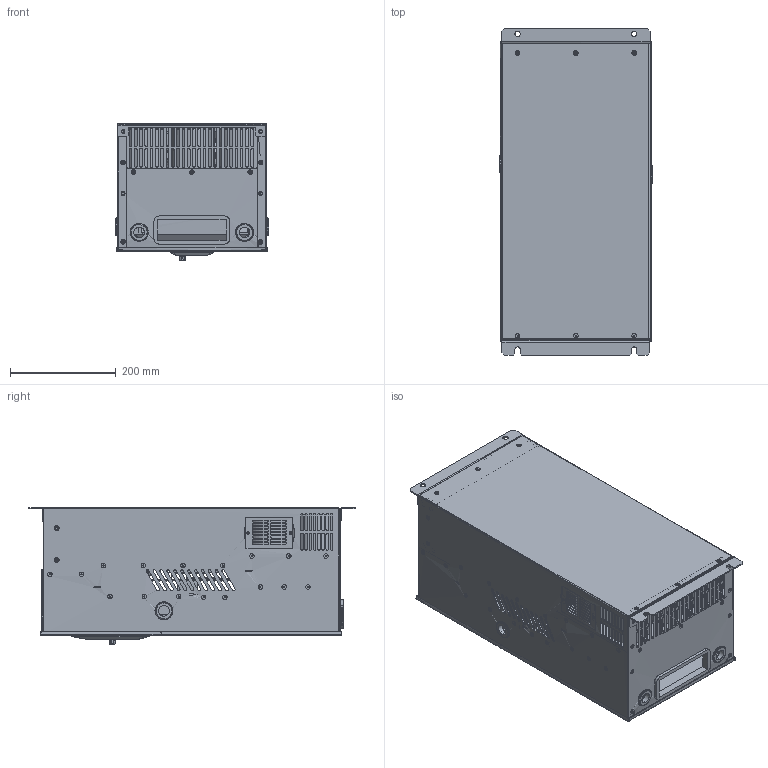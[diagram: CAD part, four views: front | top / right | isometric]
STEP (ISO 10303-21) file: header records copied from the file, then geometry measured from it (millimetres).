
FILE_DESCRIPTION (( 'STEP AP214' ), '1' );
FILE_NAME ('V2000-75KW.STEP', '2024-08-12T18:50:47', ( 'ﾏ珞褄' ), ( '' ), 'SwSTEP 2.0', 'SolidWorks 2022', '' );
FILE_SCHEMA (( 'AUTOMOTIVE_DESIGN' ));
Length unit declared in the file: millimetre
Products named in the file (113): V2000-75KW111.STEP; V2000-75KW259.STEP; V2000-75KW161.STEP; V2000-75KW148.STEP; V2000-75KW179.STEP; V2000-75KW5.STEP; V2000-75KW166.STEP; V2000-75KW.STEP; V2000-75KW128.STEP; V2000-75KW165.STEP; V2000-75KW126.STEP; V2000-75KW206.STEP; V2000-75KW182.STEP; V2000-75KW201.STEP; V2000-75KW; V2000-75KW242.STEP; V2000-75KW200.STEP; V2000-75KW88.STEP; V2000-75KW80.STEP; V2000-75KW172.STEP; V2000-75KW35.STEP; V2000-75KW267.STEP; V2000-75KW70.STEP; V2000-75KW142.STEP; V2000-75KW251.STEP; V2000-75KW55.STEP; V2000-75KW209.STEP; V2000-75KW226.STEP; V2000-75KW44.STEP; V2000-75KW178.STEP; V2000-75KW114.STEP; V2000-75KW250.STEP; V2000-75KW15.STEP; V2000-75KW75.STEP; V2000-75KW189.STEP; V2000-75KW109.STEP; V2000-75KW219.STEP; V2000-75KW62.STEP; V2000-75KW107.STEP; V2000-75KW24.STEP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
Assembly tree (112 placements, depth 3):
  V2000-75KW
    V2000-75KW.STEP
      V2000-75KW4.STEP
      V2000-75KW5.STEP
      V2000-75KW6.STEP
      V2000-75KW7.STEP
      V2000-75KW10.STEP
      V2000-75KW13.STEP
      V2000-75KW14.STEP
      V2000-75KW15.STEP
      V2000-75KW23.STEP
      V2000-75KW24.STEP
      V2000-75KW25.STEP
      V2000-75KW26.STEP
      V2000-75KW28.STEP
      V2000-75KW31.STEP
      V2000-75KW34.STEP
      V2000-75KW35.STEP
      V2000-75KW40.STEP
      V2000-75KW42.STEP
      V2000-75KW44.STEP
      V2000-75KW45.STEP
      V2000-75KW46.STEP
      V2000-75KW48.STEP
      V2000-75KW51.STEP
      V2000-75KW55.STEP
      V2000-75KW58.STEP
      V2000-75KW62.STEP
      V2000-75KW63.STEP
      V2000-75KW68.STEP
      V2000-75KW69.STEP
      V2000-75KW70.STEP
      V2000-75KW71.STEP
      V2000-75KW75.STEP
      V2000-75KW77.STEP
      V2000-75KW80.STEP
      V2000-75KW81.STEP
      V2000-75KW88.STEP
      V2000-75KW91.STEP
      V2000-75KW97.STEP
      V2000-75KW104.STEP
      V2000-75KW107.STEP
      V2000-75KW109.STEP
      V2000-75KW110.STEP
      V2000-75KW111.STEP
      V2000-75KW112.STEP
      V2000-75KW114.STEP
      V2000-75KW118.STEP
      V2000-75KW119.STEP
      V2000-75KW122.STEP
      V2000-75KW123.STEP
      V2000-75KW124.STEP
      V2000-75KW126.STEP
      V2000-75KW127.STEP
      V2000-75KW128.STEP
      V2000-75KW137.STEP
      V2000-75KW140.STEP
      V2000-75KW142.STEP
      V2000-75KW147.STEP
      V2000-75KW148.STEP
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Bounding box: 289.5 x 617 x 258.4 mm (x, y, z)
Surface area: 2630049.1 mm2
Topology: 5 solids, 150 shells, 1900 faces, 8843 edges, 6995 vertices
Faces by surface type: cylinder 873, plane 849, bspline 93, cone 85
Entity records: 153156 total; most frequent: CARTESIAN_POINT 88109, ORIENTED_EDGE 13208, EDGE_CURVE 8762, B_SPLINE_CURVE_WITH_KNOTS 8569, VERTEX_POINT 6995, DIRECTION 3834, EDGE_LOOP 2897, AXIS2_PLACEMENT_3D 1917
